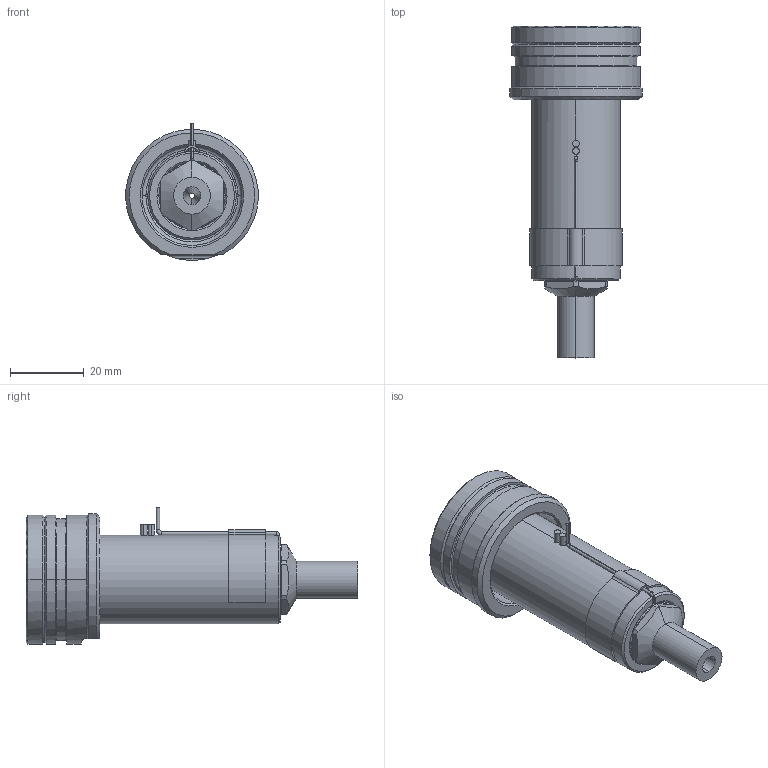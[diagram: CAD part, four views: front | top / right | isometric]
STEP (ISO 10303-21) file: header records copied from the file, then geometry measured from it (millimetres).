
FILE_DESCRIPTION((''),'2;1');
FILE_NAME('EO06_VG-ST_ESG_060_SW','2024-02-19T12:39:23',('sundharh'),(''),'CREO PARAMETRIC BY PTC INC, 2023154','CREO PARAMETRIC BY PTC INC, 2023154','');
FILE_SCHEMA(('CONFIG_CONTROL_DESIGN'));
Length unit declared in the file: millimetre
Products named in the file (1): EO06_VG-ST_ESG_060_SW
Bounding box: 35.93 x 90 x 37 mm (x, y, z)
Volume: 39693.6 mm3; surface area: 12895.6 mm2
Topology: 2 solids, 2 shells, 176 faces, 448 edges, 273 vertices
Faces by surface type: cylinder 68, plane 41, cone 34, torus 21, bspline 10, sphere 2
Entity records: 6053 total; most frequent: CARTESIAN_POINT 1735, DIRECTION 954, ORIENTED_EDGE 884, EDGE_CURVE 442, AXIS2_PLACEMENT_3D 399, VERTEX_POINT 273, CIRCLE 233, EDGE_LOOP 189
